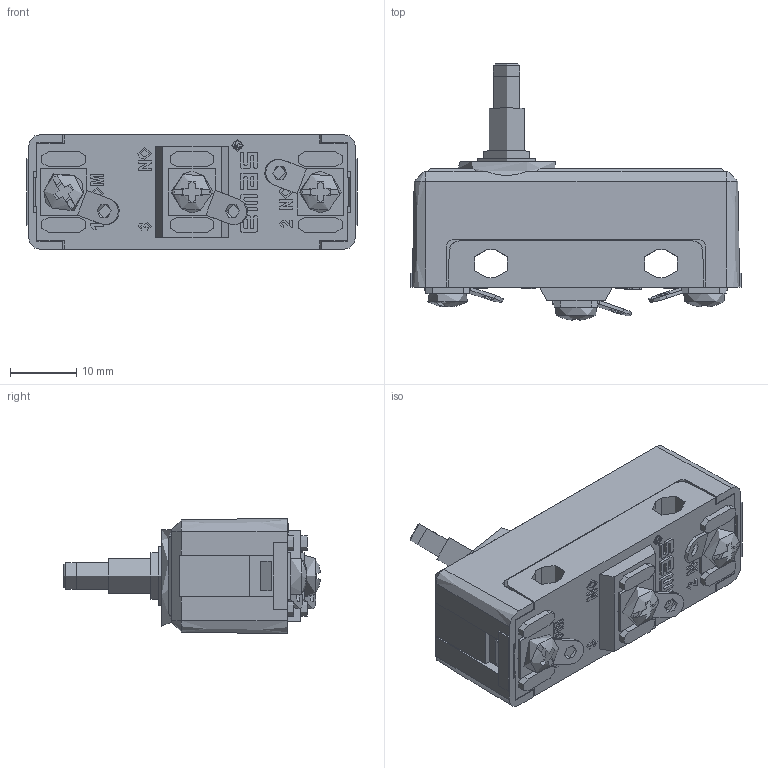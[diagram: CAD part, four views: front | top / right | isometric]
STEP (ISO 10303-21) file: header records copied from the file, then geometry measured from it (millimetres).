
FILE_DESCRIPTION((''),'2; 1');
FILE_NAME('','2026-03-27T16:30:41',(''),(''),'CST STEP Exporter V1.0','Unknown','');
FILE_SCHEMA(('CONFIG_CONTROL_DESIGN'));
Length unit declared in the file: metre
Assembly tree (15 placements, depth 2):
  (unnamed)
    (unnamed)
    (unnamed)
    (unnamed)
    (unnamed)
    (unnamed)
    (unnamed)
    (unnamed)
    (unnamed)
    (unnamed)
    (unnamed)
    (unnamed)
    (unnamed)
    (unnamed)
    (unnamed)
    (unnamed)
Bounding box: 50 x 38.8 x 17.5 mm (x, y, z)
Topology: 0 solids, 52 shells, 453 faces, 1337 edges, 942 vertices
Faces by surface type: plane 296, cylinder 85, extrusion 57, cone 12, sphere 3
Full cylindrical faces by diameter (mm): 1.4 x1, 1.8 x1, 2.2 x3, 4 x2, 4.1 x1, 5.3 x1, 7 x1, 8.8 x1, 15.2 x1
Entity records: 20930 total; most frequent: CARTESIAN_POINT 4781, ORIENTED_EDGE 2490, DIRECTION 2329, EDGE_CURVE 1383, VECTOR 977, VERTEX_POINT 971, LINE 920, AXIS2_PLACEMENT_3D 676
